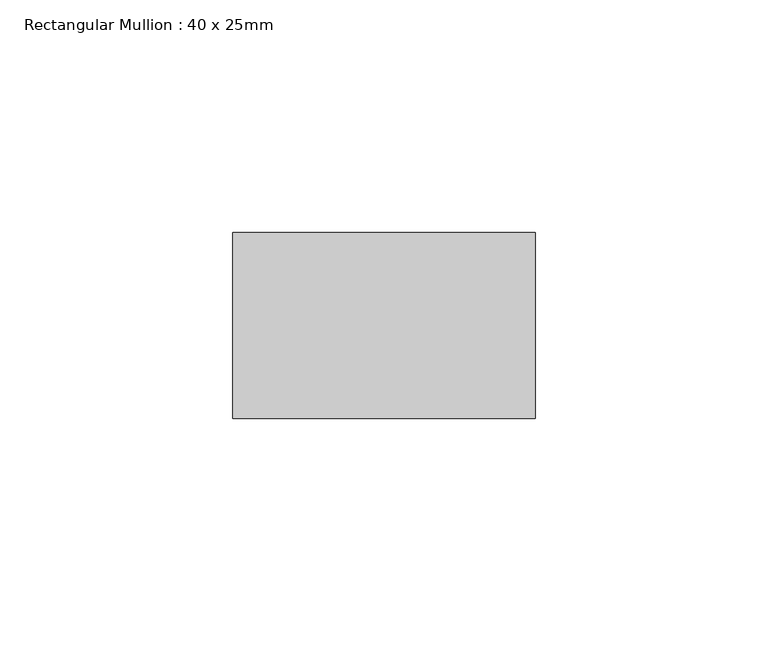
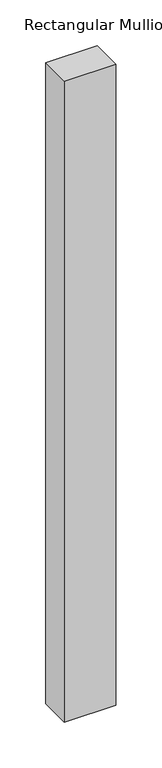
"""IFC4 building model written with IfcOpenShell, lengths in millimetres: member geometry, Rectangular Mullion : 40 x 25mm."""

import ifcopenshell
import ifcopenshell.guid

model = None  # the IFC model being written
_history = None  # IfcOwnerHistory: only IFC2X3 demands one
_inside = {}  # id of a spatial element -> (the spatial element, [elements in it])
_under = {}  # id of a project, library or spatial element -> (it, [spatial elements below it])
_declared = {}  # id of a project -> (the project, [libraries it declares])
_typed = {}  # id of a type object -> (the type object, [elements of that type])
_made_of = {}  # id of a material, layer set ... -> (it, [elements and type objects made of it])


def new_model(schema):
    """Start an empty IFC model of exactly this schema.

    Asked for "IFC4X3", IfcOpenShell would pick the latest addendum, in which some entities
    have other attributes; the version numbers below select the first issue.
    IFC2X3 requires an IfcOwnerHistory on every rooted entity: one is made here for all.
    """
    global model, _history
    if schema == "IFC4X3":
        model = ifcopenshell.file(schema_version=(4, 3, 0, 0))
    else:
        model = ifcopenshell.file(schema=schema)
    _inside.clear()
    _under.clear()
    _declared.clear()
    _typed.clear()
    _made_of.clear()
    _history = None
    if model.schema == "IFC2X3":
        org = make("IfcOrganization", Name="unknown")
        user = make(
            "IfcPersonAndOrganization",
            ThePerson=make("IfcPerson", FamilyName="unknown"),
            TheOrganization=org,
        )
        app = make(
            "IfcApplication",
            ApplicationDeveloper=org,
            Version="unknown",
            ApplicationFullName="unknown",
            ApplicationIdentifier="unknown",
        )
        _history = make(
            "IfcOwnerHistory",
            OwningUser=user,
            OwningApplication=app,
            ChangeAction="ADDED",
            CreationDate=0,
        )
    return model


def make(cls, **values):
    """One entity of the class cls with the attributes given. An attribute that is None is left unset."""
    return model.create_entity(
        cls, **{name: value for name, value in values.items() if value is not None}
    )


def rooted(cls, **values):
    """An entity with a GlobalId (a new one), such as an element, a storey or a relation."""
    return make(cls, GlobalId=ifcopenshell.guid.new(), OwnerHistory=_history, **values)


def si_unit(unit_type, name, prefix=None):
    """IfcSIUnit, for example si_unit("LENGTHUNIT", "METRE", prefix="MILLI")."""
    return make("IfcSIUnit", UnitType=unit_type, Prefix=prefix, Name=name)


def assignment(units):
    """IfcUnitAssignment: the units of a project."""
    return None if units is None else make("IfcUnitAssignment", Units=units)


def point(xyz):
    """IfcCartesianPoint."""
    return None if xyz is None else make("IfcCartesianPoint", Coordinates=xyz)


def direction(xyz):
    """IfcDirection."""
    return None if xyz is None else make("IfcDirection", DirectionRatios=xyz)


def frame(location, z_axis=None, x_axis=None):
    """IfcAxis2Placement3D, a coordinate frame: its origin and axes. An axis left out is left unset."""
    return make(
        "IfcAxis2Placement3D",
        Location=point(location),
        Axis=direction(z_axis),
        RefDirection=direction(x_axis),
    )


def origin():
    """The frame at (0, 0, 0) with its axes left unset."""
    return frame((0.0, 0.0, 0.0))


def place(relative_to, where):
    """IfcLocalPlacement: puts the frame where relative to a parent placement (None: the world)."""
    return make(
        "IfcLocalPlacement", PlacementRelTo=relative_to, RelativePlacement=where
    )


def context(
    kind, dimensions, precision=None, world=None, true_north=None, identifier=None
):
    """IfcGeometricRepresentationContext, for example the 3D "Model" context."""
    return make(
        "IfcGeometricRepresentationContext",
        ContextIdentifier=identifier,
        ContextType=kind,
        CoordinateSpaceDimension=dimensions,
        Precision=precision,
        WorldCoordinateSystem=world,
        TrueNorth=true_north,
    )


def project(units=None, contexts=None):
    """IfcProject with its units and contexts."""
    return rooted(
        "IfcProject",
        Name="project",
        RepresentationContexts=contexts,
        UnitsInContext=assignment(units),
    )


def spatial(cls, under=None, at=None, **own):
    """A site, building, storey or space (cls), placed at a placement, below another one or the project."""
    s = rooted(cls, ObjectPlacement=at, **own)
    if under is not None:
        _under.setdefault(under.id(), (under, []))[1].append(s)
    return s


def polyline(points):
    """IfcPolyline through the points."""
    return make("IfcPolyline", Points=[point(p) for p in points])


def outline(outer, holes=None, kind="AREA"):
    """IfcArbitraryClosedProfileDef: a profile drawn as a closed curve; with holes, ...WithVoids."""
    if holes is None:
        return make("IfcArbitraryClosedProfileDef", ProfileType=kind, OuterCurve=outer)
    return make(
        "IfcArbitraryProfileDefWithVoids",
        ProfileType=kind,
        OuterCurve=outer,
        InnerCurves=holes,
    )


def extrude(swept, where, along, depth):
    """IfcExtrudedAreaSolid: the profile swept, set in the frame where, extruded along a direction by depth."""
    return make(
        "IfcExtrudedAreaSolid",
        SweptArea=swept,
        Position=where,
        ExtrudedDirection=direction(along),
        Depth=depth,
    )


def shape(context_of_items, identifier, shape_type, items):
    """IfcShapeRepresentation: the items that make up one representation, for example the "Body"."""
    return make(
        "IfcShapeRepresentation",
        ContextOfItems=context_of_items,
        RepresentationIdentifier=identifier,
        RepresentationType=shape_type,
        Items=items,
    )


def source(mapping_origin, context_of_items, identifier, shape_type, items):
    """IfcRepresentationMap: a shape defined once, which mapped items show again and again."""
    return make(
        "IfcRepresentationMap",
        MappingOrigin=mapping_origin,
        MappedRepresentation=shape(context_of_items, identifier, shape_type, items),
    )


def transform(
    local_origin,
    x_axis=None,
    y_axis=None,
    z_axis=None,
    scale=None,
    scale2=None,
    scale3=None,
    uniform=True,
):
    """IfcCartesianTransformationOperator3D, or its non-uniform kind. x_axis, y_axis, z_axis: its Axis1, 2, 3."""
    if uniform:
        return make(
            "IfcCartesianTransformationOperator3D",
            Axis1=direction(x_axis),
            Axis2=direction(y_axis),
            LocalOrigin=point(local_origin),
            Scale=scale,
            Axis3=direction(z_axis),
        )
    return make(
        "IfcCartesianTransformationOperator3DnonUniform",
        Axis1=direction(x_axis),
        Axis2=direction(y_axis),
        LocalOrigin=point(local_origin),
        Scale=scale,
        Axis3=direction(z_axis),
        Scale2=scale2,
        Scale3=scale3,
    )


def mapped(mapping_source, mapping_target):
    """IfcMappedItem: shows the shape of a source again, moved by a transform."""
    return make(
        "IfcMappedItem", MappingSource=mapping_source, MappingTarget=mapping_target
    )


def made_of(thing, what):
    """Note that an element or type object is made of a material, layer set ...; save() writes the relation."""
    if what is not None:
        _made_of.setdefault(what.id(), (what, []))[1].append(thing)
    return thing


def element(
    cls,
    number,
    at=None,
    inside=None,
    cuts=None,
    type_object=None,
    material=None,
    context=None,
    identifier="Body",
    shape_type=None,
    held_by="IfcProductDefinitionShape",
    body=None,
    shapes=None,
    **own,
):
    """One element of the class cls, such as IfcWall. Its Tag is "e" and its number.

    at: its placement. inside: the storey or other place that contains it. cuts: it is an
    opening in that element (IfcRelVoidsElement). A single representation is given by context,
    identifier, shape_type and body (its items); several are given by shapes. held_by: the class
    of the entity that holds the representations. save() writes the other relations.
    """
    e = rooted(cls, Tag="e%d" % number, ObjectPlacement=at, **own)
    if body is not None:
        shapes = [shape(context, identifier, shape_type, body)]
    if shapes is not None:
        e.Representation = make(held_by, Representations=shapes)
    if inside is not None:
        _inside.setdefault(inside.id(), (inside, []))[1].append(e)
    if cuts is not None:
        rooted(
            "IfcRelVoidsElement", RelatingBuildingElement=cuts, RelatedOpeningElement=e
        )
    if type_object is not None:
        _typed.setdefault(type_object.id(), (type_object, []))[1].append(e)
    return made_of(e, material)


def aggregate(whole, parts):
    """IfcRelAggregates: a whole, such as a stair, and the parts it consists of."""
    return rooted("IfcRelAggregates", RelatingObject=whole, RelatedObjects=parts)


def save(model, path):
    """Write the relations noted so far, then the file.

    IfcRelAggregates (storeys below a building ...), IfcRelContainedInSpatialStructure (elements
    in a storey), IfcRelDefinesByType, IfcRelAssociatesMaterial and IfcRelDeclares: one each for
    every whole, place, type object, material and project.
    """
    for whole, parts in _under.values():
        aggregate(whole, parts)
    for where, things in _inside.values():
        rooted(
            "IfcRelContainedInSpatialStructure",
            RelatedElements=things,
            RelatingStructure=where,
        )
    for kind, things in _typed.values():
        rooted("IfcRelDefinesByType", RelatedObjects=things, RelatingType=kind)
    for what, things in _made_of.values():
        rooted("IfcRelAssociatesMaterial", RelatedObjects=things, RelatingMaterial=what)
    for by, libraries in _declared.values():
        rooted("IfcRelDeclares", RelatingContext=by, RelatedDefinitions=libraries)
    model.write(path)


def rectangular_mullion_40_x_25mm_737dfd52(model_context):
    return source(origin(), model_context, "Body", "SweptSolid", [
        extrude(outline(polyline([(0.0, -20.0), (0.0, -60.0), (-65.0, -60.0), (-65.0, -20.0), (0.0, -20.0)])), frame((0.0, 0.0, -854.022817), z_axis=(0.0, 0.0, 1.0), x_axis=(1.0, 0.0, 0.0)), (0.0, 0.0, 1.0), 854.022817),
    ])


if __name__ == "__main__":
    model = new_model("IFC4")
    model_context = context("Model", 3, world=origin())
    ifc_project = project(units=[si_unit("LENGTHUNIT", "METRE", prefix="MILLI")], contexts=[model_context])
    site = spatial("IfcSite", under=ifc_project)
    building = spatial("IfcBuilding", under=site)
    placement = place(None, origin())
    rectangular_mullion_40_x_25mm_shape = rectangular_mullion_40_x_25mm_737dfd52(model_context)
    element("IfcMember", 1, ObjectType="Rectangular Mullion : 40 x 25mm", at=placement, inside=building, context=model_context, shape_type="MappedRepresentation", body=[
        mapped(rectangular_mullion_40_x_25mm_shape, transform((0.0, 0.0, 0.0), x_axis=(1.0, 0.0, 0.0), y_axis=(0.0, 1.0, 0.0), z_axis=(0.0, 0.0, 1.0))),
    ])
    save(model, "model.ifc")
